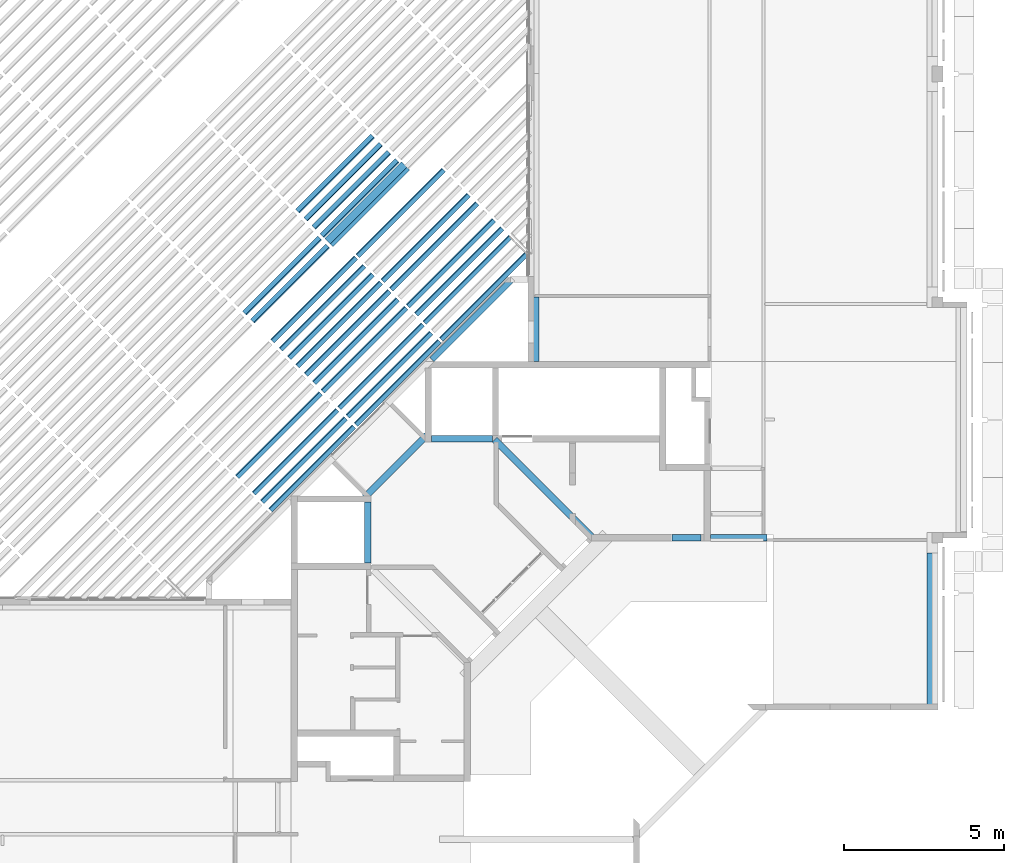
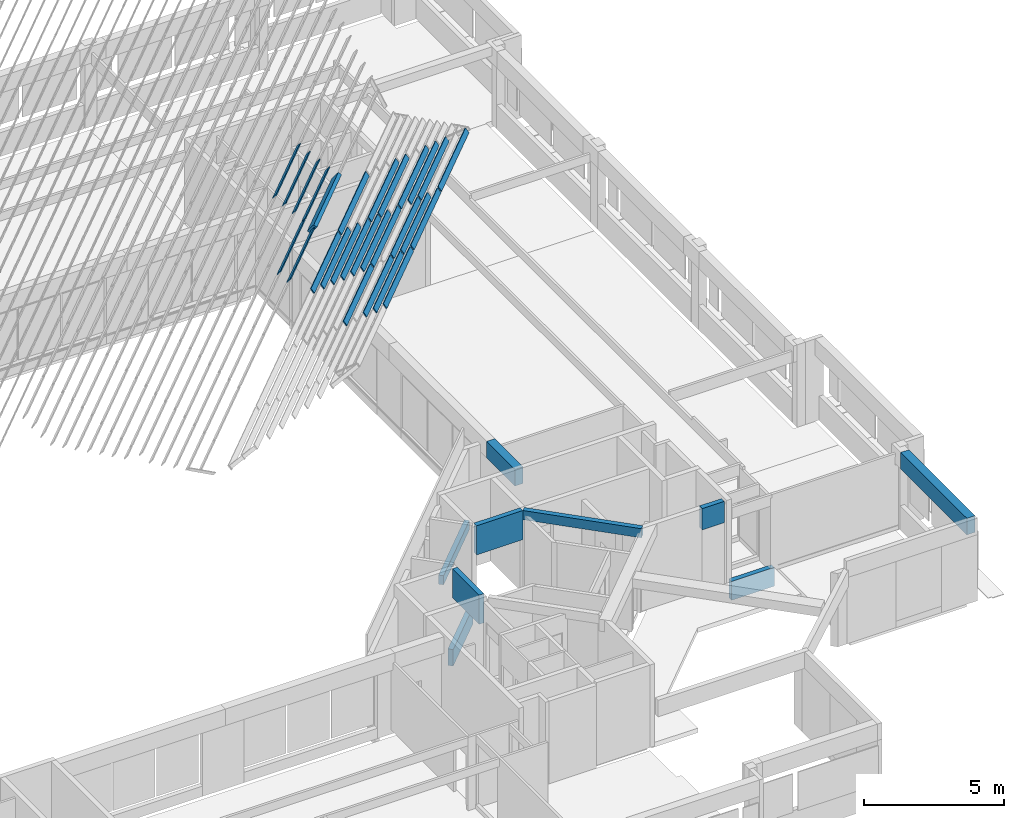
# One storey, part 9 of 37: 37 beams.
"""IFC4X3_ADD2 building model written with IfcOpenShell, lengths in millimetres."""

from ifc_helpers import new_model, si_unit, direction, frame, frame_2d, origin_with_axes, origin_2d_with_axis, place, context, subcontext, project, spatial, rectangle, extrude, source, transform, mapped, material, type_object, type_shapes, element, save


model = new_model("IFC4X3_ADD2")

# Units and contexts
model_context = context("Model", 3, precision=1e-05, world=origin_with_axes(), true_north=direction((0.0, 1.0)))
body_context = subcontext(model_context, "Body", "Model", "MODEL_VIEW")
ifc_project = project(units=[si_unit("LENGTHUNIT", "METRE", prefix="MILLI"), si_unit("AREAUNIT", "SQUARE_METRE"), si_unit("VOLUMEUNIT", "CUBIC_METRE"), si_unit("PLANEANGLEUNIT", "RADIAN"), si_unit("TIMEUNIT", "SECOND"), si_unit("MASSUNIT", "GRAM")], contexts=[model_context])

# Site, building, storey
site_placement = place(None, origin_with_axes())
site = spatial("IfcSite", under=ifc_project, at=site_placement, Name="Site", CompositionType="ELEMENT")
building_placement = place(site_placement, origin_with_axes())
building = spatial("IfcBuilding", under=site, at=building_placement, Name="IFC Building Story")
storey_placement = place(building_placement, frame((0.0, 0.0, 3600.0), z_axis=(0.0, 0.0, 1.0), x_axis=(1.0, 0.0, 0.0)))
storey = spatial("IfcBuildingStorey", under=building, at=storey_placement, Name="010", Elevation=3600.0)

# Beams
ifc_material_1 = material(Name="BB_Beton_Bestaand")
beam_type_1 = type_object("IfcBeamType", Name="BB_XX_Betonbalk_ rechthoekig_ center-center_SFB_200 x 1270 mm3", PredefinedType="NOTDEFINED")
shared_shape_1 = source(origin_with_axes(), body_context, "Body", "SweptSolid", [
    extrude(rectangle(XDim=1900.0, YDim=200.0, at=origin_2d_with_axis()), frame((0.0, 0.0, -635.0), z_axis=(0.0, 0.0, 1.0), x_axis=(1.0, 0.0, 0.0)), (0.0, 0.0, 1.0), 1270.0),
])
type_shapes(beam_type_1, [shared_shape_1])
beam_1_placement = place(storey_placement, frame((-14765.0, 17700.0, 2885.0), z_axis=(0.0, 0.0, 1.0), x_axis=(-1.0, 0.0, 0.0)))
element("IfcBeam", 1, at=beam_1_placement, inside=storey, type_object=beam_type_1, material=ifc_material_1, Name="BB_XX_Betonbalk, rechthoekig, center-center_SFB:200 x 1270 mm", ObjectType="200 x 1270 mm", PredefinedType="BEAM", context=body_context, shape_type="MappedRepresentation", body=[
    mapped(shared_shape_1, transform((0.0, 0.0, 0.0))),
])
beam_type_2 = type_object("IfcBeamType", Name="BB_XX_Betonbalk_ rechthoekig_ center-center_SFB_200 x 1270 mm5", PredefinedType="NOTDEFINED")
shared_shape_2 = source(origin_with_axes(), body_context, "Body", "SweptSolid", [
    extrude(rectangle(XDim=1900.00000000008, YDim=200.0, at=origin_2d_with_axis()), frame((0.0, 0.0, -635.0), z_axis=(0.0, 0.0, 1.0), x_axis=(1.0, 0.0, 0.0)), (0.0, 0.0, 1.0), 1270.0),
])
type_shapes(beam_type_2, [shared_shape_2])
beam_2_placement = place(storey_placement, frame((-17700.0, 14765.0, 2885.0), z_axis=(0.0, 0.0, 1.0), x_axis=(0.0, -1.0, 0.0)))
element("IfcBeam", 2, at=beam_2_placement, inside=storey, type_object=beam_type_2, material=ifc_material_1, Name="BB_XX_Betonbalk, rechthoekig, center-center_SFB:200 x 1270 mm", ObjectType="200 x 1270 mm", PredefinedType="BEAM", context=body_context, shape_type="MappedRepresentation", body=[
    mapped(shared_shape_2, transform((0.0, 0.0, 0.0))),
])
beam_type_3 = type_object("IfcBeamType", Name="BB_XX_Betonbalk_ rechthoekig_ center-center_SFB_200 x 930 mm", PredefinedType="NOTDEFINED")
shared_shape_3 = source(origin_with_axes(), body_context, "Body", "SweptSolid", [
    extrude(rectangle(XDim=909.999999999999, YDim=200.0, at=origin_2d_with_axis()), frame((0.0, 0.0, -465.0), z_axis=(0.0, 0.0, 1.0), x_axis=(1.0, 0.0, 0.0)), (0.0, 0.0, 1.0), 930.0),
])
type_shapes(beam_type_3, [shared_shape_3])
beam_3_placement = place(storey_placement, frame((-7755.0, 14600.0, 3055.0), z_axis=(0.0, 0.0, 1.0), x_axis=(1.0, 0.0, 0.0)))
element("IfcBeam", 3, at=beam_3_placement, inside=storey, type_object=beam_type_3, material=ifc_material_1, Name="BB_XX_Betonbalk, rechthoekig, center-center_SFB:200 x 930 mm", ObjectType="200 x 930 mm", PredefinedType="BEAM", context=body_context, shape_type="MappedRepresentation", body=[
    mapped(shared_shape_3, transform((0.0, 0.0, 0.0))),
])
beam_type_4 = type_object("IfcBeamType", Name="BB_XX_Betonbalk_ rechthoekig_ center-center_SFB_340 x 720 mm115", PredefinedType="NOTDEFINED")
shared_shape_4 = source(origin_with_axes(), body_context, "Body", "SweptSolid", [
    extrude(rectangle(XDim=4740.00000000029, YDim=340.0, at=origin_2d_with_axis()), frame((1.450644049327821e-10, 0.0, -360.0), z_axis=(0.0, 0.0, 1.0), x_axis=(1.0, 0.0, 0.0)), (0.0, 0.0, 1.0), 720.0),
])
type_shapes(beam_type_4, [shared_shape_4])
beam_4_placement = place(storey_placement, frame((-75.0, 11765.0, 3040.0), z_axis=(0.0, 0.0, 1.0), x_axis=(0.0, -1.0, 0.0)))
element("IfcBeam", 4, at=beam_4_placement, inside=storey, type_object=beam_type_4, material=ifc_material_1, Name="BB_XX_Betonbalk, rechthoekig, center-center_SFB:340 x 720 mm", ObjectType="340 x 720 mm", PredefinedType="BEAM", context=body_context, shape_type="MappedRepresentation", body=[
    mapped(shared_shape_4, transform((0.0, 0.0, 0.0))),
])
beam_type_5 = type_object("IfcBeamType", Name="BB_XX_Betonbalk_ rechthoekig_ center-center_SFB_340 x 720 mm143", PredefinedType="NOTDEFINED")
shared_shape_5 = source(origin_with_axes(), body_context, "Body", "SweptSolid", [
    extrude(rectangle(XDim=2020.000000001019, YDim=340.0, at=frame_2d((0.0, 0.0), x_axis=(0.0, 1.0))), frame((-12525.0, 21110.00000000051, 6280.000000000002), z_axis=(0.0, 0.0, 1.0), x_axis=(1.0, 0.0, 0.0)), (0.0, 0.0, 1.0), 719.999999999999),
])
type_shapes(beam_type_5, [shared_shape_5])
beam_5_placement = place(storey_placement, frame((0.0, 0.0, -3600.0), z_axis=(0.0, 0.0, 1.0), x_axis=(1.0, 0.0, 0.0)))
element("IfcBeam", 5, at=beam_5_placement, inside=storey, type_object=beam_type_5, material=ifc_material_1, Name="BB_XX_Betonbalk, rechthoekig, center-center_SFB:340 x 720 mm", ObjectType="340 x 720 mm", PredefinedType="BEAM", context=body_context, shape_type="MappedRepresentation", body=[
    mapped(shared_shape_5, transform((0.0, 0.0, 0.0))),
])
beam_type_6 = type_object("IfcBeamType", Name="BB_XX_Betonbalk_ rechthoekig_ center-center_SFB_200 x 820 mm1", PredefinedType="NOTDEFINED")
shared_shape_6 = source(origin_with_axes(), body_context, "Body", "SweptSolid", [
    extrude(rectangle(XDim=1760.0, YDim=199.9999999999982, at=origin_2d_with_axis()), frame((-6120.0, 14600.0, 2700.0), z_axis=(0.0, 0.0, 1.0), x_axis=(1.0, 0.0, 0.0)), (0.0, 0.0, 1.0), 820.0),
])
type_shapes(beam_type_6, [shared_shape_6])
beam_6_placement = place(storey_placement, frame((0.0, 0.0, -3600.0), z_axis=(0.0, 0.0, 1.0), x_axis=(1.0, 0.0, 0.0)))
element("IfcBeam", 6, at=beam_6_placement, inside=storey, type_object=beam_type_6, material=ifc_material_1, Name="BB_XX_Betonbalk, rechthoekig, center-center_SFB:200 x 820 mm", ObjectType="200 x 820 mm", PredefinedType="BEAM", context=body_context, shape_type="MappedRepresentation", body=[
    mapped(shared_shape_6, transform((0.0, 0.0, 0.0))),
])
beam_type_7 = type_object("IfcBeamType", Name="BB_XX_Betonbalk_ rechthoekig_ center-center_SFB_200 x 400 mm", PredefinedType="NOTDEFINED")
shared_shape_7 = source(origin_with_axes(), body_context, "Body", "SweptSolid", [
    extrude(rectangle(XDim=4384.062043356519, YDim=200.0, at=frame_2d((0.0, 0.0), x_axis=(-0.7071067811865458, 0.7071067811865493))), frame((-12194.28932188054, 16120.71067811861, 6720.0), z_axis=(0.0, 0.0, 1.0), x_axis=(1.0, 0.0, 0.0)), (0.0, 0.0, 1.0), 400.0),
])
type_shapes(beam_type_7, [shared_shape_7])
beam_7_placement = place(storey_placement, frame((0.0, 0.0, -3600.0), z_axis=(0.0, 0.0, 1.0), x_axis=(1.0, 0.0, 0.0)))
element("IfcBeam", 7, at=beam_7_placement, inside=storey, type_object=beam_type_7, material=ifc_material_1, Name="BB_XX_Betonbalk, rechthoekig, center-center_SFB:200 x 400 mm", ObjectType="200 mm x 400 mm", PredefinedType="BEAM", context=body_context, shape_type="MappedRepresentation", body=[
    mapped(shared_shape_7, transform((0.0, 0.0, 0.0))),
])
ifc_material_2 = material(Name="GVH_i2_naaldhout_generiek")
beam_type_8 = type_object("IfcBeamType", Name="28_SF_hout_rechthoekig_40 x 230_401", PredefinedType="NOTDEFINED")
shared_shape_8 = source(origin_with_axes(), body_context, "Body", "SweptSolid", [
    extrude(rectangle(XDim=3317.27000000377, YDim=40.0000000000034, at=origin_2d_with_axis()), frame((-37.318198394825, 0.0, -115.0), z_axis=(0.0, 0.0, 1.0), x_axis=(1.0, 0.0, 0.0)), (0.0, 0.0, 1.0), 230.0),
])
type_shapes(beam_type_8, [shared_shape_8])
beam_8_placement = place(storey_placement, frame((-20145.8473019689, 22509.4513885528, 13865.1625326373), z_axis=(0.4307932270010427, -0.4307932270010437, 0.7929907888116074), x_axis=(-0.7071067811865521, -0.707106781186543, 0.0)))
element("IfcBeam", 8, at=beam_8_placement, inside=storey, type_object=beam_type_8, material=ifc_material_2, Name="28_SF_hout_rechthoekig:40 x 230", ObjectType="40 x 230", PredefinedType="BEAM", context=body_context, shape_type="MappedRepresentation", body=[
    mapped(shared_shape_8, transform((0.0, 0.0, 0.0))),
])
beam_type_9 = type_object("IfcBeamType", Name="28_SF_hout_rechthoekig_40 x 230_403", PredefinedType="NOTDEFINED")
shared_shape_9 = source(origin_with_axes(), body_context, "Body", "SweptSolid", [
    extrude(rectangle(XDim=3317.27000000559, YDim=40.0000000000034, at=origin_2d_with_axis()), frame((-37.31814732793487, 0.0, -115.0), z_axis=(0.0, 0.0, 1.0), x_axis=(1.0, 0.0, 0.0)), (0.0, 0.0, 1.0), 230.0),
])
type_shapes(beam_type_9, [shared_shape_9])
beam_9_placement = place(storey_placement, frame((-20399.8576133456, 22763.4616999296, 14141.1453644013), z_axis=(0.4307932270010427, -0.4307932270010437, 0.7929907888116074), x_axis=(-0.7071067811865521, -0.707106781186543, 0.0)))
element("IfcBeam", 9, at=beam_9_placement, inside=storey, type_object=beam_type_9, material=ifc_material_2, Name="28_SF_hout_rechthoekig:40 x 230", ObjectType="40 x 230", PredefinedType="BEAM", context=body_context, shape_type="MappedRepresentation", body=[
    mapped(shared_shape_9, transform((0.0, 0.0, 0.0))),
])
beam_type_10 = type_object("IfcBeamType", Name="28_SF_hout_rechthoekig_WxH", PredefinedType="NOTDEFINED")
shared_shape_10 = source(origin_with_axes(), body_context, "Body", "SweptSolid", [
    extrude(rectangle(XDim=3384.95190445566, YDim=150.0000000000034, at=origin_2d_with_axis()), frame((-36.38478436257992, 0.0, -200.0), z_axis=(0.0, 0.0, 1.0), x_axis=(1.0, 0.0, 0.0)), (0.0, 0.0, 1.0), 400.0),
])
type_shapes(beam_type_10, [shared_shape_10])
beam_10_placement = place(storey_placement, frame((-17741.5007459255, 24987.0327931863, 13797.7583155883), z_axis=(0.4307932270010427, -0.4307932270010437, 0.7929907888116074), x_axis=(-0.7071067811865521, -0.707106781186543, 0.0)))
element("IfcBeam", 10, at=beam_10_placement, inside=storey, type_object=beam_type_10, material=ifc_material_2, Name="28_SF_hout_rechthoekig:WxH", ObjectType="WxH", PredefinedType="BEAM", context=body_context, shape_type="MappedRepresentation", body=[
    mapped(shared_shape_10, transform((0.0, 0.0, 0.0))),
])
beam_type_11 = type_object("IfcBeamType", Name="28_SF_hout_rechthoekig_40 x 230_433", PredefinedType="NOTDEFINED")
shared_shape_11 = source(origin_with_axes(), body_context, "Body", "SweptSolid", [
    extrude(rectangle(XDim=3317.27999999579, YDim=40.0000000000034, at=origin_2d_with_axis()), frame((-36.3847332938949, 0.0, -115.0), z_axis=(0.0, 0.0, 1.0), x_axis=(1.0, 0.0, 0.0)), (0.0, 0.0, 1.0), 229.999999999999),
])
type_shapes(beam_type_11, [shared_shape_11])
beam_11_placement = place(storey_placement, frame((-17982.8192642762, 25180.5000489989, 14141.1453644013), z_axis=(0.4307932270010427, -0.4307932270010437, 0.7929907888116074), x_axis=(-0.7071067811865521, -0.707106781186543, 0.0)))
element("IfcBeam", 11, at=beam_11_placement, inside=storey, type_object=beam_type_11, material=ifc_material_2, Name="28_SF_hout_rechthoekig:40 x 230", ObjectType="40 x 230", PredefinedType="BEAM", context=body_context, shape_type="MappedRepresentation", body=[
    mapped(shared_shape_11, transform((0.0, 0.0, 0.0))),
])
beam_type_12 = type_object("IfcBeamType", Name="28_SF_hout_rechthoekig_40 x 230_435", PredefinedType="NOTDEFINED")
shared_shape_12 = source(origin_with_axes(), body_context, "Body", "SweptSolid", [
    extrude(rectangle(XDim=3317.27999999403, YDim=40.0000000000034, at=origin_2d_with_axis()), frame((-36.3846822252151, 0.0, -115.0), z_axis=(0.0, 0.0, 1.0), x_axis=(1.0, 0.0, 0.0)), (0.0, 0.0, 1.0), 229.999999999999),
])
type_shapes(beam_type_12, [shared_shape_12])
beam_12_placement = place(storey_placement, frame((-18236.829575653, 25434.5103603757, 14417.1281961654), z_axis=(0.4307932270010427, -0.4307932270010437, 0.7929907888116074), x_axis=(-0.7071067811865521, -0.707106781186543, 0.0)))
element("IfcBeam", 12, at=beam_12_placement, inside=storey, type_object=beam_type_12, material=ifc_material_2, Name="28_SF_hout_rechthoekig:40 x 230", ObjectType="40 x 230", PredefinedType="BEAM", context=body_context, shape_type="MappedRepresentation", body=[
    mapped(shared_shape_12, transform((0.0, 0.0, 0.0))),
])
beam_type_13 = type_object("IfcBeamType", Name="28_SF_hout_rechthoekig_40 x 230_437", PredefinedType="NOTDEFINED")
shared_shape_13 = source(origin_with_axes(), body_context, "Body", "SweptSolid", [
    extrude(rectangle(XDim=3317.27999999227, YDim=40.0000000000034, at=origin_2d_with_axis()), frame((-36.38463115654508, 0.0, -115.0), z_axis=(0.0, 0.0, 1.0), x_axis=(1.0, 0.0, 0.0)), (0.0, 0.0, 1.0), 229.999999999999),
])
type_shapes(beam_type_13, [shared_shape_13])
beam_13_placement = place(storey_placement, frame((-18490.8398870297, 25688.5206717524, 14693.1110279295), z_axis=(0.4307932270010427, -0.4307932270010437, 0.7929907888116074), x_axis=(-0.7071067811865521, -0.707106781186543, 0.0)))
element("IfcBeam", 13, at=beam_13_placement, inside=storey, type_object=beam_type_13, material=ifc_material_2, Name="28_SF_hout_rechthoekig:40 x 230", ObjectType="40 x 230", PredefinedType="BEAM", context=body_context, shape_type="MappedRepresentation", body=[
    mapped(shared_shape_13, transform((0.0, 0.0, 0.0))),
])
beam_type_14 = type_object("IfcBeamType", Name="28_SF_hout_rechthoekig_40 x 230_439", PredefinedType="NOTDEFINED")
shared_shape_14 = source(origin_with_axes(), body_context, "Body", "SweptSolid", [
    extrude(rectangle(XDim=3317.27999999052, YDim=40.0000000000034, at=origin_2d_with_axis()), frame((-36.38458008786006, 0.0, -115.0), z_axis=(0.0, 0.0, 1.0), x_axis=(1.0, 0.0, 0.0)), (0.0, 0.0, 1.0), 229.999999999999),
])
type_shapes(beam_type_14, [shared_shape_14])
beam_14_placement = place(storey_placement, frame((-18744.8501984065, 25942.5309831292, 14969.0938596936), z_axis=(0.4307932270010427, -0.4307932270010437, 0.7929907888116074), x_axis=(-0.7071067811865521, -0.707106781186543, 0.0)))
element("IfcBeam", 14, at=beam_14_placement, inside=storey, type_object=beam_type_14, material=ifc_material_2, Name="28_SF_hout_rechthoekig:40 x 230", ObjectType="40 x 230", PredefinedType="BEAM", context=body_context, shape_type="MappedRepresentation", body=[
    mapped(shared_shape_14, transform((0.0, 0.0, 0.0))),
])
beam_type_15 = type_object("IfcBeamType", Name="28_SF_hout_rechthoekig_40 x 230_621", PredefinedType="NOTDEFINED")
shared_shape_15 = source(origin_with_axes(), body_context, "Body", "SweptSolid", [
    extrude(rectangle(XDim=3689.9999999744, YDim=40.0000000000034, at=origin_2d_with_axis()), frame((146.2715354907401, 0.0, -115.0), z_axis=(0.0, 0.0, 1.0), x_axis=(1.0, 0.0, 0.0)), (0.0, 0.0, 1.0), 230.0),
])
type_shapes(beam_type_15, [shared_shape_15])
for number, where, z_axis, x_axis, name in (
    (15, (-20580.60969923, 17707.7502088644, 15120.9043347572), (-0.403406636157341, 0.4034078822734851, 0.8212948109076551), (0.7071078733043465, 0.7071056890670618, 0.0), "28_SF_hout_rechthoekig:40 x 230"),
    (16, (-20059.1031739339, 17186.2420726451, 15633.2169420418), (-0.403406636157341, 0.4034078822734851, 0.8212948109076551), (0.7071078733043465, 0.7071056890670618, 0.0), "28_SF_hout_rechthoekig:40 x 230"),
    (17, (-19798.3499112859, 16925.4880045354, 15889.3732456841), (-0.403406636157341, 0.4034078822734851, 0.8212948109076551), (0.7071078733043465, 0.7071056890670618, 0.0), "28_SF_hout_rechthoekig:40 x 230"),
    (18, (-19537.5966486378, 16664.7339364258, 16145.5295493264), (-0.403406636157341, 0.4034078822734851, 0.8212948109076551), (0.7071078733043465, 0.7071056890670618, 0.0), "28_SF_hout_rechthoekig:40 x 230"),
):
    element("IfcBeam", number, at=place(storey_placement, frame(where, z_axis=z_axis, x_axis=x_axis)), inside=storey, type_object=beam_type_15, material=ifc_material_2, Name=name, ObjectType="40 x 230", PredefinedType="BEAM", context=body_context, shape_type="MappedRepresentation", body=[
        mapped(shared_shape_15, transform((0.0, 0.0, 0.0))),
    ])
beam_type_16 = type_object("IfcBeamType", Name="28_SF_hout_rechthoekig_40 x 230_625", PredefinedType="NOTDEFINED")
shared_shape_16 = source(origin_with_axes(), body_context, "Body", "SweptSolid", [
    extrude(rectangle(XDim=3689.99999999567, YDim=40.0000000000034, at=origin_2d_with_axis()), frame((130.494422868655, 0.0, -115.0), z_axis=(0.0, 0.0, 1.0), x_axis=(1.0, 0.0, 0.0)), (0.0, 0.0, 1.0), 229.9999999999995),
])
type_shapes(beam_type_16, [shared_shape_16])
beam_15_placement = place(storey_placement, frame((-19468.1823892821, 21949.225247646, 13583.9665129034), z_axis=(-0.4034072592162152, 0.4034072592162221, 0.8212948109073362), x_axis=(0.7071067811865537, 0.7071067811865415, 0.0)))
element("IfcBeam", 19, at=beam_15_placement, inside=storey, type_object=beam_type_16, material=ifc_material_2, Name="28_SF_hout_rechthoekig:40 x 230", ObjectType="40 x 230", PredefinedType="BEAM", context=body_context, shape_type="MappedRepresentation", body=[
    mapped(shared_shape_16, transform((0.0, 0.0, 0.0))),
])
beam_type_17 = type_object("IfcBeamType", Name="28_SF_hout_rechthoekig_40 x 230_627", PredefinedType="NOTDEFINED")
shared_shape_17 = source(origin_with_axes(), body_context, "Body", "SweptSolid", [
    extrude(rectangle(XDim=3689.99999999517, YDim=40.0000000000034, at=origin_2d_with_axis()), frame((130.493853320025, 0.0, -115.0), z_axis=(0.0, 0.0, 1.0), x_axis=(1.0, 0.0, 0.0)), (0.0, 0.0, 1.0), 229.9999999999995),
])
type_shapes(beam_type_17, [shared_shape_17])
beam_16_placement = place(storey_placement, frame((-19207.4287239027, 21688.4715822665, 13840.1228165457), z_axis=(-0.4034072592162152, 0.4034072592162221, 0.8212948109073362), x_axis=(0.7071067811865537, 0.7071067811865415, 0.0)))
element("IfcBeam", 20, at=beam_16_placement, inside=storey, type_object=beam_type_17, material=ifc_material_2, Name="28_SF_hout_rechthoekig:40 x 230", ObjectType="40 x 230", PredefinedType="BEAM", context=body_context, shape_type="MappedRepresentation", body=[
    mapped(shared_shape_17, transform((0.0, 0.0, 0.0))),
])
beam_type_18 = type_object("IfcBeamType", Name="28_SF_hout_rechthoekig_40 x 230_629", PredefinedType="NOTDEFINED")
shared_shape_18 = source(origin_with_axes(), body_context, "Body", "SweptSolid", [
    extrude(rectangle(XDim=3689.99999999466, YDim=40.0000000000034, at=origin_2d_with_axis()), frame((130.4932837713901, 0.0, -115.0), z_axis=(0.0, 0.0, 1.0), x_axis=(1.0, 0.0, 0.0)), (0.0, 0.0, 1.0), 229.9999999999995),
])
type_shapes(beam_type_18, [shared_shape_18])
beam_17_placement = place(storey_placement, frame((-18946.6750585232, 21427.717916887, 14096.279120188), z_axis=(-0.4034072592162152, 0.4034072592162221, 0.8212948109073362), x_axis=(0.7071067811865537, 0.7071067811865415, 0.0)))
element("IfcBeam", 21, at=beam_17_placement, inside=storey, type_object=beam_type_18, material=ifc_material_2, Name="28_SF_hout_rechthoekig:40 x 230", ObjectType="40 x 230", PredefinedType="BEAM", context=body_context, shape_type="MappedRepresentation", body=[
    mapped(shared_shape_18, transform((0.0, 0.0, 0.0))),
])
beam_type_19 = type_object("IfcBeamType", Name="28_SF_hout_rechthoekig_40 x 230_631", PredefinedType="NOTDEFINED")
shared_shape_19 = source(origin_with_axes(), body_context, "Body", "SweptSolid", [
    extrude(rectangle(XDim=3689.99999999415, YDim=40.0000000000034, at=origin_2d_with_axis()), frame((130.492714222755, 0.0, -115.0), z_axis=(0.0, 0.0, 1.0), x_axis=(1.0, 0.0, 0.0)), (0.0, 0.0, 1.0), 229.9999999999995),
])
type_shapes(beam_type_19, [shared_shape_19])
beam_18_placement = place(storey_placement, frame((-18685.9213931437, 21166.9642515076, 14352.4354238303), z_axis=(-0.4034072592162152, 0.4034072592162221, 0.8212948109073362), x_axis=(0.7071067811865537, 0.7071067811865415, 0.0)))
element("IfcBeam", 22, at=beam_18_placement, inside=storey, type_object=beam_type_19, material=ifc_material_2, Name="28_SF_hout_rechthoekig:40 x 230", ObjectType="40 x 230", PredefinedType="BEAM", context=body_context, shape_type="MappedRepresentation", body=[
    mapped(shared_shape_19, transform((0.0, 0.0, 0.0))),
])
beam_type_20 = type_object("IfcBeamType", Name="28_SF_hout_rechthoekig_40 x 230_633", PredefinedType="NOTDEFINED")
shared_shape_20 = source(origin_with_axes(), body_context, "Body", "SweptSolid", [
    extrude(rectangle(XDim=3689.99999999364, YDim=40.0000000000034, at=origin_2d_with_axis()), frame((130.49214467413, 0.0, -115.0), z_axis=(0.0, 0.0, 1.0), x_axis=(1.0, 0.0, 0.0)), (0.0, 0.0, 1.0), 229.9999999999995),
])
type_shapes(beam_type_20, [shared_shape_20])
beam_19_placement = place(storey_placement, frame((-18425.1677277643, 20906.2105861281, 14608.5917274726), z_axis=(-0.4034072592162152, 0.4034072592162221, 0.8212948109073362), x_axis=(0.7071067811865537, 0.7071067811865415, 0.0)))
element("IfcBeam", 23, at=beam_19_placement, inside=storey, type_object=beam_type_20, material=ifc_material_2, Name="28_SF_hout_rechthoekig:40 x 230", ObjectType="40 x 230", PredefinedType="BEAM", context=body_context, shape_type="MappedRepresentation", body=[
    mapped(shared_shape_20, transform((0.0, 0.0, 0.0))),
])
beam_type_21 = type_object("IfcBeamType", Name="28_SF_hout_rechthoekig_40 x 230_635", PredefinedType="NOTDEFINED")
shared_shape_21 = source(origin_with_axes(), body_context, "Body", "SweptSolid", [
    extrude(rectangle(XDim=3689.99999999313, YDim=40.0000000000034, at=origin_2d_with_axis()), frame((130.4915751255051, 0.0, -115.0), z_axis=(0.0, 0.0, 1.0), x_axis=(1.0, 0.0, 0.0)), (0.0, 0.0, 1.0), 229.9999999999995),
])
type_shapes(beam_type_21, [shared_shape_21])
beam_20_placement = place(storey_placement, frame((-18164.4140623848, 20645.4569207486, 14864.7480311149), z_axis=(-0.4034072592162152, 0.4034072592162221, 0.8212948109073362), x_axis=(0.7071067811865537, 0.7071067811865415, 0.0)))
element("IfcBeam", 24, at=beam_20_placement, inside=storey, type_object=beam_type_21, material=ifc_material_2, Name="28_SF_hout_rechthoekig:40 x 230", ObjectType="40 x 230", PredefinedType="BEAM", context=body_context, shape_type="MappedRepresentation", body=[
    mapped(shared_shape_21, transform((0.0, 0.0, 0.0))),
])
beam_type_22 = type_object("IfcBeamType", Name="28_SF_hout_rechthoekig_40 x 230_637", PredefinedType="NOTDEFINED")
shared_shape_22 = source(origin_with_axes(), body_context, "Body", "SweptSolid", [
    extrude(rectangle(XDim=3689.99999999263, YDim=40.0000000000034, at=origin_2d_with_axis()), frame((130.491005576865, 0.0, -115.0), z_axis=(0.0, 0.0, 1.0), x_axis=(1.0, 0.0, 0.0)), (0.0, 0.0, 1.0), 229.9999999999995),
])
type_shapes(beam_type_22, [shared_shape_22])
beam_21_placement = place(storey_placement, frame((-17903.6603970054, 20384.7032553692, 15120.9043347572), z_axis=(-0.4034072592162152, 0.4034072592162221, 0.8212948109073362), x_axis=(0.7071067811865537, 0.7071067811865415, 0.0)))
element("IfcBeam", 25, at=beam_21_placement, inside=storey, type_object=beam_type_22, material=ifc_material_2, Name="28_SF_hout_rechthoekig:40 x 230", ObjectType="40 x 230", PredefinedType="BEAM", context=body_context, shape_type="MappedRepresentation", body=[
    mapped(shared_shape_22, transform((0.0, 0.0, 0.0))),
])
beam_type_23 = type_object("IfcBeamType", Name="28_SF_hout_rechthoekig_40 x 230_641", PredefinedType="NOTDEFINED")
shared_shape_23 = source(origin_with_axes(), body_context, "Body", "SweptSolid", [
    extrude(rectangle(XDim=3689.99999999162, YDim=40.0000000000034, at=origin_2d_with_axis()), frame((130.4898664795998, 0.0, -115.0), z_axis=(0.0, 0.0, 1.0), x_axis=(1.0, 0.0, 0.0)), (0.0, 0.0, 1.0), 229.9999999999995),
])
type_shapes(beam_type_23, [shared_shape_23])
beam_22_placement = place(storey_placement, frame((-17382.1530662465, 19863.1959246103, 15633.2169420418), z_axis=(-0.4034072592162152, 0.4034072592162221, 0.8212948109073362), x_axis=(0.7071067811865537, 0.7071067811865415, 0.0)))
element("IfcBeam", 26, at=beam_22_placement, inside=storey, type_object=beam_type_23, material=ifc_material_2, Name="28_SF_hout_rechthoekig:40 x 230", ObjectType="40 x 230", PredefinedType="BEAM", context=body_context, shape_type="MappedRepresentation", body=[
    mapped(shared_shape_23, transform((0.0, 0.0, 0.0))),
])
beam_type_24 = type_object("IfcBeamType", Name="28_SF_hout_rechthoekig_40 x 230_643", PredefinedType="NOTDEFINED")
shared_shape_24 = source(origin_with_axes(), body_context, "Body", "SweptSolid", [
    extrude(rectangle(XDim=3689.99999999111, YDim=40.0000000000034, at=origin_2d_with_axis()), frame((130.4892969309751, 0.0, -115.0), z_axis=(0.0, 0.0, 1.0), x_axis=(1.0, 0.0, 0.0)), (0.0, 0.0, 1.0), 229.9999999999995),
])
type_shapes(beam_type_24, [shared_shape_24])
beam_23_placement = place(storey_placement, frame((-17121.399400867, 19602.4422592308, 15889.3732456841), z_axis=(-0.4034072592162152, 0.4034072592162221, 0.8212948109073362), x_axis=(0.7071067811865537, 0.7071067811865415, 0.0)))
element("IfcBeam", 27, at=beam_23_placement, inside=storey, type_object=beam_type_24, material=ifc_material_2, Name="28_SF_hout_rechthoekig:40 x 230", ObjectType="40 x 230", PredefinedType="BEAM", context=body_context, shape_type="MappedRepresentation", body=[
    mapped(shared_shape_24, transform((0.0, 0.0, 0.0))),
])
beam_type_25 = type_object("IfcBeamType", Name="28_SF_hout_rechthoekig_40 x 230_645", PredefinedType="NOTDEFINED")
shared_shape_25 = source(origin_with_axes(), body_context, "Body", "SweptSolid", [
    extrude(rectangle(XDim=3689.9999999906, YDim=40.0000000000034, at=origin_2d_with_axis()), frame((130.4887273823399, 0.0, -115.0), z_axis=(0.0, 0.0, 1.0), x_axis=(1.0, 0.0, 0.0)), (0.0, 0.0, 1.0), 230.0),
])
type_shapes(beam_type_25, [shared_shape_25])
beam_24_placement = place(storey_placement, frame((-16860.6457354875, 19341.6885938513, 16145.5295493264), z_axis=(-0.4034072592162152, 0.4034072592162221, 0.8212948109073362), x_axis=(0.7071067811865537, 0.7071067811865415, 0.0)))
element("IfcBeam", 28, at=beam_24_placement, inside=storey, type_object=beam_type_25, material=ifc_material_2, Name="28_SF_hout_rechthoekig:40 x 230", ObjectType="40 x 230", PredefinedType="BEAM", context=body_context, shape_type="MappedRepresentation", body=[
    mapped(shared_shape_25, transform((0.0, 0.0, 0.0))),
])
beam_type_26 = type_object("IfcBeamType", Name="28_SF_hout_rechthoekig_40 x 230_647", PredefinedType="NOTDEFINED")
shared_shape_26 = source(origin_with_axes(), body_context, "Body", "SweptSolid", [
    extrude(rectangle(XDim=3790.44306245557, YDim=40.0000000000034, at=origin_2d_with_axis()), frame((153.298183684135, 0.0, -115.0), z_axis=(0.0, 0.0, 1.0), x_axis=(1.0, 0.0, 0.0)), (0.0, 0.0, 1.0), 230.0),
])
type_shapes(beam_type_26, [shared_shape_26])
beam_25_placement = place(storey_placement, frame((-16783.0025328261, 24634.405104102, 13583.9665129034), z_axis=(-0.4034072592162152, 0.4034072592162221, 0.8212948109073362), x_axis=(0.7071067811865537, 0.7071067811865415, 0.0)))
element("IfcBeam", 29, at=beam_25_placement, inside=storey, type_object=beam_type_26, material=ifc_material_2, Name="28_SF_hout_rechthoekig:40 x 230", ObjectType="40 x 230", PredefinedType="BEAM", context=body_context, shape_type="MappedRepresentation", body=[
    mapped(shared_shape_26, transform((0.0, 0.0, 0.0))),
])
beam_type_27 = type_object("IfcBeamType", Name="28_SF_hout_rechthoekig_40 x 230_653", PredefinedType="NOTDEFINED")
shared_shape_27 = source(origin_with_axes(), body_context, "Body", "SweptSolid", [
    extrude(rectangle(XDim=3790.44643272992, YDim=40.0000000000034, at=origin_2d_with_axis()), frame((153.2981601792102, 0.0, -115.0), z_axis=(0.0, 0.0, 1.0), x_axis=(1.0, 0.0, 0.0)), (0.0, 0.0, 1.0), 230.0),
])
type_shapes(beam_type_27, [shared_shape_27])
beam_26_placement = place(storey_placement, frame((-16000.7415366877, 23852.1441079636, 14352.4354238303), z_axis=(-0.4034072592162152, 0.4034072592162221, 0.8212948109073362), x_axis=(0.7071067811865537, 0.7071067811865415, 0.0)))
element("IfcBeam", 30, at=beam_26_placement, inside=storey, type_object=beam_type_27, material=ifc_material_2, Name="28_SF_hout_rechthoekig:40 x 230", ObjectType="40 x 230", PredefinedType="BEAM", context=body_context, shape_type="MappedRepresentation", body=[
    mapped(shared_shape_27, transform((0.0, 0.0, 0.0))),
])
beam_type_28 = type_object("IfcBeamType", Name="28_SF_hout_rechthoekig_40 x 230_655", PredefinedType="NOTDEFINED")
shared_shape_28 = source(origin_with_axes(), body_context, "Body", "SweptSolid", [
    extrude(rectangle(XDim=3790.44755615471, YDim=40.0000000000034, at=origin_2d_with_axis()), frame((153.2981523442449, 0.0, -115.0), z_axis=(0.0, 0.0, 1.0), x_axis=(1.0, 0.0, 0.0)), (0.0, 0.0, 1.0), 230.0),
])
type_shapes(beam_type_28, [shared_shape_28])
beam_27_placement = place(storey_placement, frame((-15739.9878713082, 23591.3904425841, 14608.5917274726), z_axis=(-0.4034072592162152, 0.4034072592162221, 0.8212948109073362), x_axis=(0.7071067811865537, 0.7071067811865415, 0.0)))
element("IfcBeam", 31, at=beam_27_placement, inside=storey, type_object=beam_type_28, material=ifc_material_2, Name="28_SF_hout_rechthoekig:40 x 230", ObjectType="40 x 230", PredefinedType="BEAM", context=body_context, shape_type="MappedRepresentation", body=[
    mapped(shared_shape_28, transform((0.0, 0.0, 0.0))),
])
beam_type_29 = type_object("IfcBeamType", Name="28_SF_hout_rechthoekig_40 x 230_659", PredefinedType="NOTDEFINED")
shared_shape_29 = source(origin_with_axes(), body_context, "Body", "SweptSolid", [
    extrude(rectangle(XDim=3790.44980300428, YDim=40.0000000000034, at=origin_2d_with_axis()), frame((153.2981366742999, 0.0, -115.0), z_axis=(0.0, 0.0, 1.0), x_axis=(1.0, 0.0, 0.0)), (0.0, 0.0, 1.0), 230.0),
])
type_shapes(beam_type_29, [shared_shape_29])
beam_28_placement = place(storey_placement, frame((-15218.4805405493, 23069.8831118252, 15120.9043347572), z_axis=(-0.4034072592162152, 0.4034072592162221, 0.8212948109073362), x_axis=(0.7071067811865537, 0.7071067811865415, 0.0)))
element("IfcBeam", 32, at=beam_28_placement, inside=storey, type_object=beam_type_29, material=ifc_material_2, Name="28_SF_hout_rechthoekig:40 x 230", ObjectType="40 x 230", PredefinedType="BEAM", context=body_context, shape_type="MappedRepresentation", body=[
    mapped(shared_shape_29, transform((0.0, 0.0, 0.0))),
])
beam_type_30 = type_object("IfcBeamType", Name="28_SF_hout_rechthoekig_40 x 230_661", PredefinedType="NOTDEFINED")
shared_shape_30 = source(origin_with_axes(), body_context, "Body", "SweptSolid", [
    extrude(rectangle(XDim=3790.45092642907, YDim=40.0000000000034, at=origin_2d_with_axis()), frame((153.2981288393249, 0.0, -115.0), z_axis=(0.0, 0.0, 1.0), x_axis=(1.0, 0.0, 0.0)), (0.0, 0.0, 1.0), 230.0),
])
type_shapes(beam_type_30, [shared_shape_30])
beam_29_placement = place(storey_placement, frame((-14957.7268751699, 22809.1294464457, 15377.0606383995), z_axis=(-0.4034072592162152, 0.4034072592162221, 0.8212948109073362), x_axis=(0.7071067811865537, 0.7071067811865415, 0.0)))
element("IfcBeam", 33, at=beam_29_placement, inside=storey, type_object=beam_type_30, material=ifc_material_2, Name="28_SF_hout_rechthoekig:40 x 230", ObjectType="40 x 230", PredefinedType="BEAM", context=body_context, shape_type="MappedRepresentation", body=[
    mapped(shared_shape_30, transform((0.0, 0.0, 0.0))),
])
beam_type_31 = type_object("IfcBeamType", Name="28_SF_hout_rechthoekig_40 x 230_663", PredefinedType="NOTDEFINED")
shared_shape_31 = source(origin_with_axes(), body_context, "Body", "SweptSolid", [
    extrude(rectangle(XDim=3790.45204985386, YDim=40.0000000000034, at=origin_2d_with_axis()), frame((153.29812100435, 0.0, -115.0), z_axis=(0.0, 0.0, 1.0), x_axis=(1.0, 0.0, 0.0)), (0.0, 0.0, 1.0), 230.0),
])
type_shapes(beam_type_31, [shared_shape_31])
beam_30_placement = place(storey_placement, frame((-14696.9732097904, 22548.3757810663, 15633.2169420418), z_axis=(-0.4034072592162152, 0.4034072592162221, 0.8212948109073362), x_axis=(0.7071067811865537, 0.7071067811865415, 0.0)))
element("IfcBeam", 34, at=beam_30_placement, inside=storey, type_object=beam_type_31, material=ifc_material_2, Name="28_SF_hout_rechthoekig:40 x 230", ObjectType="40 x 230", PredefinedType="BEAM", context=body_context, shape_type="MappedRepresentation", body=[
    mapped(shared_shape_31, transform((0.0, 0.0, 0.0))),
])
beam_type_32 = type_object("IfcBeamType", Name="28_SF_hout_rechthoekig_40 x 230_667", PredefinedType="NOTDEFINED")
shared_shape_32 = source(origin_with_axes(), body_context, "Body", "SweptSolid", [
    extrude(rectangle(XDim=3790.45429670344, YDim=40.0000000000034, at=origin_2d_with_axis()), frame((153.2981053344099, 0.0, -115.0), z_axis=(0.0, 0.0, 1.0), x_axis=(1.0, 0.0, 0.0)), (0.0, 0.0, 1.0), 229.9999999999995),
])
type_shapes(beam_type_32, [shared_shape_32])
beam_31_placement = place(storey_placement, frame((-14175.4658790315, 22026.8684503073, 16145.5295493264), z_axis=(-0.4034072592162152, 0.4034072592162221, 0.8212948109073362), x_axis=(0.7071067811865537, 0.7071067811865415, 0.0)))
element("IfcBeam", 35, at=beam_31_placement, inside=storey, type_object=beam_type_32, material=ifc_material_2, Name="28_SF_hout_rechthoekig:40 x 230", ObjectType="40 x 230", PredefinedType="BEAM", context=body_context, shape_type="MappedRepresentation", body=[
    mapped(shared_shape_32, transform((0.0, 0.0, 0.0))),
])
beam_type_33 = type_object("IfcBeamType", Name="BB_XX_Betonbalk_ rechthoekig_ center-center_SFB_190 x 400 mm1", PredefinedType="NOTDEFINED")
shared_shape_33 = source(origin_with_axes(), body_context, "Body", "SweptSolid", [
    extrude(rectangle(XDim=3569.404995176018, YDim=189.9999999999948, at=frame_2d((0.0, 0.0), x_axis=(0.7071067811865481, 0.7071067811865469))), frame((-14443.77886831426, 21426.14351656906, 3000.0), z_axis=(0.0, 0.0, 1.0), x_axis=(1.0, 0.0, 0.0)), (0.0, 0.0, 1.0), 400.0),
])
type_shapes(beam_type_33, [shared_shape_33])
beam_32_placement = place(storey_placement, frame((0.0, 0.0, -3600.0), z_axis=(0.0, 0.0, 1.0), x_axis=(1.0, 0.0, 0.0)))
element("IfcBeam", 36, at=beam_32_placement, inside=storey, type_object=beam_type_33, material=ifc_material_1, Name="BB_XX_Betonbalk, rechthoekig, center-center_SFB:190 x 400 mm", ObjectType="190 x 400 mm", PredefinedType="BEAM", context=body_context, shape_type="MappedRepresentation", body=[
    mapped(shared_shape_33, transform((0.0, 0.0, 0.0))),
])
beam_type_34 = type_object("IfcBeamType", Name="BB_XX_Betonbalk_ rechthoekig_ center-center_SFB_200 x 720 mm27", PredefinedType="NOTDEFINED")
shared_shape_34 = source(origin_with_axes(), body_context, "Body", "SweptSolid", [
    extrude(rectangle(XDim=2742.89460004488, YDim=200.0, at=origin_2d_with_axis()), frame((26.17021162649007, 0.0, -360.0), z_axis=(0.0, 0.0, 1.0), x_axis=(1.0, 0.0, 0.0)), (0.0, 0.0, 1.0), 720.0),
])
type_shapes(beam_type_34, [shared_shape_34])
beam_33_placement = place(storey_placement, frame((-16847.5270219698, 16815.9487940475, -440.0), z_axis=(0.0, 0.0, 1.0), x_axis=(0.7069491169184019, 0.7072644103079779, 0.0)))
element("IfcBeam", 37, at=beam_33_placement, inside=storey, type_object=beam_type_34, material=ifc_material_1, Name="BB_XX_Betonbalk, rechthoekig, center-center_SFB:200 x 720 mm", ObjectType="200 x 720 mm", PredefinedType="BEAM", context=body_context, shape_type="MappedRepresentation", body=[
    mapped(shared_shape_34, transform((0.0, 0.0, 0.0))),
])

save(model, "model.ifc")
